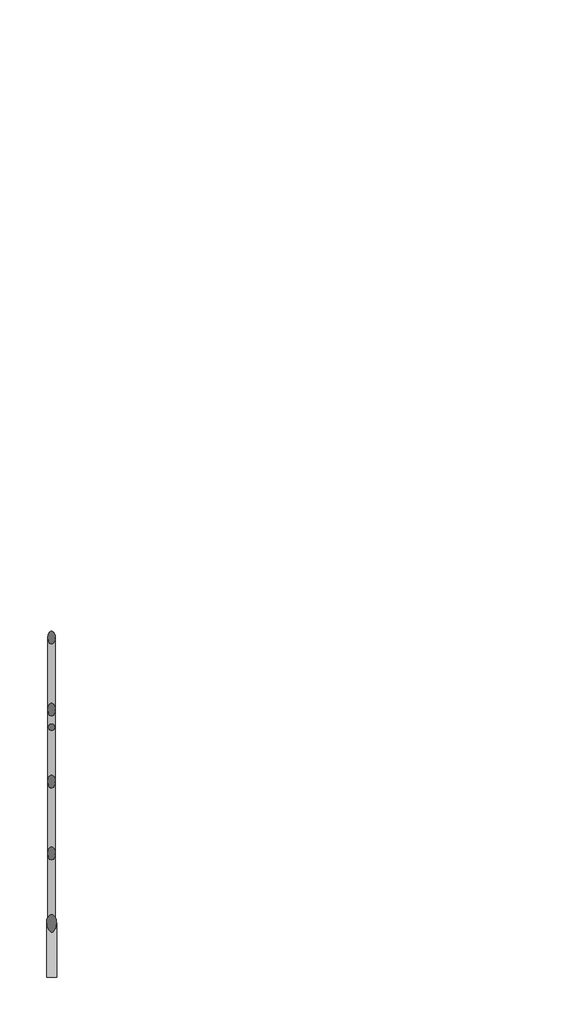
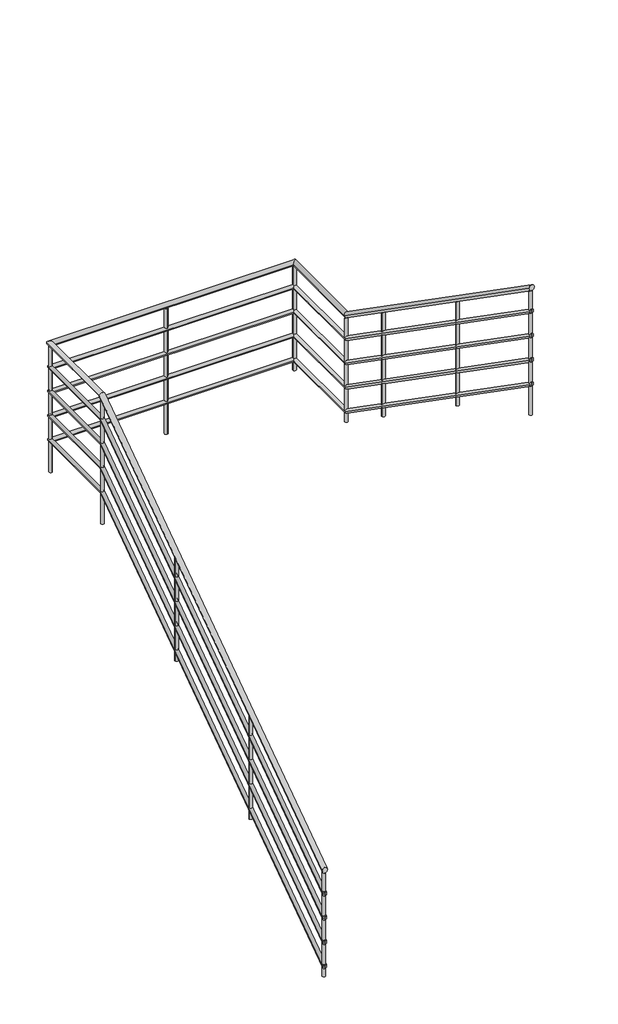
# One storey: 1 railing.
"""IFC4 building model written with IfcOpenShell, lengths in millimetres."""

from ifc_helpers import new_model, si_unit, point, frame, frame_2d, origin, place, context, project, spatial, circle_curve, ellipse_curve, trimmed, segment, composite_curve, outline, extrude, element, save
from ifc_brep_helpers import plane_surface, cylinder_surface, advanced_brep

model = new_model("IFC4")

# Units and contexts
model_context = context("Model", 3, world=origin())
ifc_project = project(units=[si_unit("LENGTHUNIT", "METRE", prefix="MILLI")], contexts=[model_context])

# Site, building, storey
site = spatial("IfcSite", under=ifc_project)
building = spatial("IfcBuilding", under=site)
storey = spatial("IfcBuildingStorey", under=building, Name="樓層 1", Elevation=0.0)

# Railing
placement = place(None, origin())
element("IfcRailing", 1, ObjectType="900mm 管", at=placement, inside=storey, context=model_context, shape_type="SolidModel", body=[
    advanced_brep(
    [(-9455.2896387, 3376.9038533, 1049.5496944), (-9495.2896387, 3376.9038533, 1049.5496944), (-7595.2896387, 3876.9038533, 4875.6366509), (-7555.2896387, 3876.9038533, 4875.6366509), (-9455.2896387, 6383.1761676, 3140.8695652), (-9495.2896387, 6383.1761676, 3140.8695652), (-9455.2896387, 7056.9038533, 3140.8695652), (-9495.2896387, 7096.9038533, 3140.8695652), (-7595.2896387, 7056.9038533, 3140.8695652), (-7555.2896387, 7096.9038533, 3140.8695652), (-7595.2896387, 6370.631539, 3140.8695652), (-7555.2896387, 6370.631539, 3140.8695652)],
    [
        (0, 1, ellipse_curve(frame((-9475.2896387, 3376.9038533, 1049.5496944), z_axis=(0.0, -1.0, 0.0), x_axis=(0.0, 0.0, -1.0)), 24.3633491, 20.0)),
        (1, 0, ellipse_curve(frame((-9475.2896387, 3376.9038533, 1049.5496944), z_axis=(0.0, -1.0, 0.0), x_axis=(0.0, 0.0, -1.0)), 24.3633491, 20.0)),
        (2, 3, ellipse_curve(frame((-7575.2896387, 3876.9038533, 4875.6366509), z_axis=(0.0, -1.0, 0.0), x_axis=(0.0, 0.0, -1.0)), 24.3633491, 20.0)),
        (3, 2, ellipse_curve(frame((-7575.2896387, 3876.9038533, 4875.6366509), z_axis=(0.0, -1.0, 0.0), x_axis=(0.0, 0.0, -1.0)), 24.3633491, 20.0)),
        (0, 4),
        (4, 5, ellipse_curve(frame((-9475.2896387, 6383.1761676, 3140.8695652), z_axis=(0.0, -0.9541763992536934, -0.2992447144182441), x_axis=(0.0, 0.2992447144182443, -0.9541763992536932)), 20.9604849, 20.0)),
        (5, 1),
        (5, 4, ellipse_curve(frame((-9475.2896387, 6383.1761676, 3140.8695652), z_axis=(0.0, -0.9541763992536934, -0.2992447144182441), x_axis=(0.0, 0.2992447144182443, -0.9541763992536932)), 20.9604849, 20.0)),
        (4, 6),
        (6, 7, ellipse_curve(frame((-9475.2896387, 7076.9038533, 3140.8695652), z_axis=(-0.7071067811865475, -0.7071067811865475, 0.0), x_axis=(0.7071067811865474, -0.7071067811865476, 0.0)), 28.2842712, 20.0)),
        (7, 5),
        (7, 6, ellipse_curve(frame((-9475.2896387, 7076.9038533, 3140.8695652), z_axis=(-0.7071067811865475, -0.7071067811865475, 0.0), x_axis=(0.7071067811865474, -0.7071067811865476, 0.0)), 28.2842712, 20.0)),
        (6, 8),
        (8, 9, ellipse_curve(frame((-7575.2896387, 7076.9038533, 3140.8695652), z_axis=(-0.7071067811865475, 0.7071067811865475, 0.0), x_axis=(-0.7071067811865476, -0.7071067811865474, 0.0)), 28.2842712, 20.0)),
        (9, 7),
        (9, 8, ellipse_curve(frame((-7575.2896387, 7076.9038533, 3140.8695652), z_axis=(-0.7071067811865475, 0.7071067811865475, 0.0), x_axis=(-0.7071067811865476, -0.7071067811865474, 0.0)), 28.2842712, 20.0)),
        (8, 10),
        (10, 11, ellipse_curve(frame((-7575.2896387, 6370.631539, 3140.8695652), z_axis=(0.0, 0.9541763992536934, -0.2992447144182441), x_axis=(0.0, 0.2992447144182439, 0.9541763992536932)), 20.9604849, 20.0)),
        (11, 9),
        (11, 10, ellipse_curve(frame((-7575.2896387, 6370.631539, 3140.8695652), z_axis=(0.0, 0.9541763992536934, -0.2992447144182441), x_axis=(0.0, 0.2992447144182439, 0.9541763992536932)), 20.9604849, 20.0)),
        (10, 2),
        (3, 11),
    ],
    [
        plane_surface(frame((-9475.2896387, 3376.9038533, 1073.9130435), z_axis=(0.0, -1.0, 0.0), x_axis=(0.0, 0.0, 1.0))),
        plane_surface(frame((-7575.2896387, 3876.9038533, 4900.0), z_axis=(0.0, -1.0, 0.0), x_axis=(0.0, 0.0, -1.0))),
        cylinder_surface(frame((-9475.2896387, 3388.3251431, 1057.4949394), z_axis=(0.0, -0.8209052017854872, -0.5710644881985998), x_axis=(-1.0, 0.0, 0.0)), 20.0),
        cylinder_surface(frame((-9475.2896387, 6376.9038533, 3140.8695652), z_axis=(0.0, -1.0, 0.0), x_axis=(-1.0, 0.0, 0.0)), 20.0),
        cylinder_surface(frame((-9475.2896387, 7076.9038533, 3140.8695652), z_axis=(-1.0, 0.0, 0.0), x_axis=(0.0, 1.0, 0.0)), 20.0),
        cylinder_surface(frame((-7575.2896387, 7076.9038533, 3140.8695652), z_axis=(0.0, 1.0, 0.0), x_axis=(1.0, 0.0, 0.0)), 20.0),
        cylinder_surface(frame((-7575.2896387, 6365.4825635, 3144.4514612), z_axis=(0.0, 0.8209052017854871, -0.5710644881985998), x_axis=(1.0, 0.0, 0.0)), 20.0),
    ],
    [
        (0, [[1, 2]]),
        (1, [[3, 4]]),
        (2, [[-1, 5, 6, 7]]),
        (2, [[-2, -7, 8, -5]]),
        (3, [[-6, 9, 10, 11]]),
        (3, [[-8, -11, 12, -9]]),
        (4, [[-10, 13, 14, 15]]),
        (4, [[-12, -15, 16, -13]]),
        (5, [[-14, 17, 18, 19]]),
        (5, [[-16, -19, 20, -17]]),
        (6, [[-18, 21, -4, 22]]),
        (6, [[-20, -22, -3, -21]]),
    ],
),
    advanced_brep(
    [(-7590.2896387, 3876.9038533, 4681.7274882), (-7560.2896387, 3876.9038533, 4681.7274882), (-7590.2896387, 6372.1996176, 2945.8695652), (-7560.2896387, 6372.1996176, 2945.8695652), (-7590.2896387, 7061.9038533, 2945.8695652), (-7560.2896387, 7091.9038533, 2945.8695652), (-9460.2896387, 7061.9038533, 2945.8695652), (-9490.2896387, 7091.9038533, 2945.8695652), (-9460.2896387, 6381.608089, 2945.8695652), (-9490.2896387, 6381.608089, 2945.8695652), (-9460.2896387, 3376.9038533, 855.6405317), (-9490.2896387, 3376.9038533, 855.6405317)],
    [
        (0, 1, ellipse_curve(frame((-7575.2896387, 3876.9038533, 4681.7274882), z_axis=(0.0, -1.0, 0.0), x_axis=(0.0, 0.0, 1.0)), 18.2725118, 15.0)),
        (1, 0, ellipse_curve(frame((-7575.2896387, 3876.9038533, 4681.7274882), z_axis=(0.0, -1.0, 0.0), x_axis=(0.0, 0.0, 1.0)), 18.2725118, 15.0)),
        (0, 2),
        (2, 3, ellipse_curve(frame((-7575.2896387, 6372.1996176, 2945.8695652), z_axis=(0.0, -0.9541763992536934, 0.2992447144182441), x_axis=(0.0, 0.2992447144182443, 0.9541763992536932)), 15.7203637, 15.0)),
        (3, 1),
        (3, 2, ellipse_curve(frame((-7575.2896387, 6372.1996176, 2945.8695652), z_axis=(0.0, -0.9541763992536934, 0.2992447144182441), x_axis=(0.0, 0.2992447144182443, 0.9541763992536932)), 15.7203637, 15.0)),
        (2, 4),
        (4, 5, ellipse_curve(frame((-7575.2896387, 7076.9038533, 2945.8695652), z_axis=(0.7071067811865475, -0.7071067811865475, 0.0), x_axis=(-0.7071067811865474, -0.7071067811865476, 0.0)), 21.2132034, 15.0)),
        (5, 3),
        (5, 4, ellipse_curve(frame((-7575.2896387, 7076.9038533, 2945.8695652), z_axis=(0.7071067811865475, -0.7071067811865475, 0.0), x_axis=(-0.7071067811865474, -0.7071067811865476, 0.0)), 21.2132034, 15.0)),
        (4, 6),
        (6, 7, ellipse_curve(frame((-9475.2896387, 7076.9038533, 2945.8695652), z_axis=(0.7071067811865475, 0.7071067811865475, 0.0), x_axis=(0.7071067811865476, -0.7071067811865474, 0.0)), 21.2132034, 15.0)),
        (7, 5),
        (7, 6, ellipse_curve(frame((-9475.2896387, 7076.9038533, 2945.8695652), z_axis=(0.7071067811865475, 0.7071067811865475, 0.0), x_axis=(0.7071067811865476, -0.7071067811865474, 0.0)), 21.2132034, 15.0)),
        (6, 8),
        (8, 9, ellipse_curve(frame((-9475.2896387, 6381.608089, 2945.8695652), z_axis=(0.0, 0.9541763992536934, 0.2992447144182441), x_axis=(0.0, 0.2992447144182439, -0.9541763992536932)), 15.7203637, 15.0)),
        (9, 7),
        (9, 8, ellipse_curve(frame((-9475.2896387, 6381.608089, 2945.8695652), z_axis=(0.0, 0.9541763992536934, 0.2992447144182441), x_axis=(0.0, 0.2992447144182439, -0.9541763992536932)), 15.7203637, 15.0)),
        (10, 11, ellipse_curve(frame((-9475.2896387, 3376.9038533, 855.6405317), z_axis=(0.0, -1.0, 0.0), x_axis=(0.0, 0.0, 1.0)), 18.2725118, 15.0)),
        (11, 10, ellipse_curve(frame((-9475.2896387, 3376.9038533, 855.6405317), z_axis=(0.0, -1.0, 0.0), x_axis=(0.0, 0.0, 1.0)), 18.2725118, 15.0)),
        (8, 10),
        (11, 9),
    ],
    [
        plane_surface(frame((-7575.2896387, 3876.9038533, 4700.0), z_axis=(0.0, -1.0, 0.0), x_axis=(0.0, 0.0, 1.0))),
        cylinder_surface(frame((-7575.2896387, 3868.337886, 4687.686422), z_axis=(0.0, -0.8209052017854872, 0.5710644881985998), x_axis=(1.0, 0.0, 0.0)), 15.0),
        cylinder_surface(frame((-7575.2896387, 6376.9038533, 2945.8695652), z_axis=(0.0, -1.0, 0.0), x_axis=(1.0, 0.0, 0.0)), 15.0),
        cylinder_surface(frame((-7575.2896387, 7076.9038533, 2945.8695652), z_axis=(1.0, 0.0, 0.0), x_axis=(0.0, 1.0, 0.0)), 15.0),
        cylinder_surface(frame((-9475.2896387, 7076.9038533, 2945.8695652), z_axis=(0.0, 1.0, 0.0), x_axis=(-1.0, 0.0, 0.0)), 15.0),
        plane_surface(frame((-9475.2896387, 3376.9038533, 873.9130435), z_axis=(0.0, -1.0, 0.0), x_axis=(0.0, 0.0, -1.0))),
        cylinder_surface(frame((-9475.2896387, 6385.4698206, 2948.5559872), z_axis=(0.0, 0.8209052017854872, 0.5710644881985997), x_axis=(-1.0, 0.0, 0.0)), 15.0),
    ],
    [
        (0, [[1, 2]]),
        (1, [[-1, 3, 4, 5]]),
        (1, [[-2, -5, 6, -3]]),
        (2, [[-4, 7, 8, 9]]),
        (2, [[-6, -9, 10, -7]]),
        (3, [[-8, 11, 12, 13]]),
        (3, [[-10, -13, 14, -11]]),
        (4, [[-12, 15, 16, 17]]),
        (4, [[-14, -17, 18, -15]]),
        (5, [[19, 20]]),
        (6, [[-16, 21, -20, 22]]),
        (6, [[-18, -22, -19, -21]]),
    ],
),
    advanced_brep(
    [(-7590.2896387, 3876.9038533, 4481.7274882), (-7560.2896387, 3876.9038533, 4481.7274882), (-7590.2896387, 6372.1996176, 2745.8695652), (-7560.2896387, 6372.1996176, 2745.8695652), (-7590.2896387, 7061.9038533, 2745.8695652), (-7560.2896387, 7091.9038533, 2745.8695652), (-9460.2896387, 7061.9038533, 2745.8695652), (-9490.2896387, 7091.9038533, 2745.8695652), (-9460.2896387, 6381.608089, 2745.8695652), (-9490.2896387, 6381.608089, 2745.8695652), (-9460.2896387, 3376.9038533, 655.6405317), (-9490.2896387, 3376.9038533, 655.6405317)],
    [
        (0, 1, ellipse_curve(frame((-7575.2896387, 3876.9038533, 4481.7274882), z_axis=(0.0, -1.0, 0.0), x_axis=(0.0, 0.0, 1.0)), 18.2725118, 15.0)),
        (1, 0, ellipse_curve(frame((-7575.2896387, 3876.9038533, 4481.7274882), z_axis=(0.0, -1.0, 0.0), x_axis=(0.0, 0.0, 1.0)), 18.2725118, 15.0)),
        (0, 2),
        (2, 3, ellipse_curve(frame((-7575.2896387, 6372.1996176, 2745.8695652), z_axis=(0.0, -0.9541763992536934, 0.2992447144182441), x_axis=(0.0, 0.2992447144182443, 0.9541763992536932)), 15.7203637, 15.0)),
        (3, 1),
        (3, 2, ellipse_curve(frame((-7575.2896387, 6372.1996176, 2745.8695652), z_axis=(0.0, -0.9541763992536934, 0.2992447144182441), x_axis=(0.0, 0.2992447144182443, 0.9541763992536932)), 15.7203637, 15.0)),
        (2, 4),
        (4, 5, ellipse_curve(frame((-7575.2896387, 7076.9038533, 2745.8695652), z_axis=(0.7071067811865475, -0.7071067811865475, 0.0), x_axis=(-0.7071067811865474, -0.7071067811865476, 0.0)), 21.2132034, 15.0)),
        (5, 3),
        (5, 4, ellipse_curve(frame((-7575.2896387, 7076.9038533, 2745.8695652), z_axis=(0.7071067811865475, -0.7071067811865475, 0.0), x_axis=(-0.7071067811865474, -0.7071067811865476, 0.0)), 21.2132034, 15.0)),
        (4, 6),
        (6, 7, ellipse_curve(frame((-9475.2896387, 7076.9038533, 2745.8695652), z_axis=(0.7071067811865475, 0.7071067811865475, 0.0), x_axis=(0.7071067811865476, -0.7071067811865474, 0.0)), 21.2132034, 15.0)),
        (7, 5),
        (7, 6, ellipse_curve(frame((-9475.2896387, 7076.9038533, 2745.8695652), z_axis=(0.7071067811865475, 0.7071067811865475, 0.0), x_axis=(0.7071067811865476, -0.7071067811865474, 0.0)), 21.2132034, 15.0)),
        (6, 8),
        (8, 9, ellipse_curve(frame((-9475.2896387, 6381.608089, 2745.8695652), z_axis=(0.0, 0.9541763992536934, 0.2992447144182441), x_axis=(0.0, 0.2992447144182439, -0.9541763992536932)), 15.7203637, 15.0)),
        (9, 7),
        (9, 8, ellipse_curve(frame((-9475.2896387, 6381.608089, 2745.8695652), z_axis=(0.0, 0.9541763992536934, 0.2992447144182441), x_axis=(0.0, 0.2992447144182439, -0.9541763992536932)), 15.7203637, 15.0)),
        (10, 11, ellipse_curve(frame((-9475.2896387, 3376.9038533, 655.6405317), z_axis=(0.0, -1.0, 0.0), x_axis=(0.0, 0.0, 1.0)), 18.2725118, 15.0)),
        (11, 10, ellipse_curve(frame((-9475.2896387, 3376.9038533, 655.6405317), z_axis=(0.0, -1.0, 0.0), x_axis=(0.0, 0.0, 1.0)), 18.2725118, 15.0)),
        (8, 10),
        (11, 9),
    ],
    [
        plane_surface(frame((-7575.2896387, 3876.9038533, 4500.0), z_axis=(0.0, -1.0, 0.0), x_axis=(0.0, 0.0, 1.0))),
        cylinder_surface(frame((-7575.2896387, 3868.337886, 4487.686422), z_axis=(0.0, -0.8209052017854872, 0.5710644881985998), x_axis=(1.0, 0.0, 0.0)), 15.0),
        cylinder_surface(frame((-7575.2896387, 6376.9038533, 2745.8695652), z_axis=(0.0, -1.0, 0.0), x_axis=(1.0, 0.0, 0.0)), 15.0),
        cylinder_surface(frame((-7575.2896387, 7076.9038533, 2745.8695652), z_axis=(1.0, 0.0, 0.0), x_axis=(0.0, 1.0, 0.0)), 15.0),
        cylinder_surface(frame((-9475.2896387, 7076.9038533, 2745.8695652), z_axis=(0.0, 1.0, 0.0), x_axis=(-1.0, 0.0, 0.0)), 15.0),
        plane_surface(frame((-9475.2896387, 3376.9038533, 673.9130435), z_axis=(0.0, -1.0, 0.0), x_axis=(0.0, 0.0, -1.0))),
        cylinder_surface(frame((-9475.2896387, 6385.4698206, 2748.5559872), z_axis=(0.0, 0.8209052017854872, 0.5710644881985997), x_axis=(-1.0, 0.0, 0.0)), 15.0),
    ],
    [
        (0, [[1, 2]]),
        (1, [[-1, 3, 4, 5]]),
        (1, [[-2, -5, 6, -3]]),
        (2, [[-4, 7, 8, 9]]),
        (2, [[-6, -9, 10, -7]]),
        (3, [[-8, 11, 12, 13]]),
        (3, [[-10, -13, 14, -11]]),
        (4, [[-12, 15, 16, 17]]),
        (4, [[-14, -17, 18, -15]]),
        (5, [[19, 20]]),
        (6, [[-16, 21, -20, 22]]),
        (6, [[-18, -22, -19, -21]]),
    ],
),
    advanced_brep(
    [(-7590.2896387, 3876.9038533, 4281.7274882), (-7560.2896387, 3876.9038533, 4281.7274882), (-7590.2896387, 6372.1996176, 2545.8695652), (-7560.2896387, 6372.1996176, 2545.8695652), (-7590.2896387, 7061.9038533, 2545.8695652), (-7560.2896387, 7091.9038533, 2545.8695652), (-9460.2896387, 7061.9038533, 2545.8695652), (-9490.2896387, 7091.9038533, 2545.8695652), (-9460.2896387, 6381.608089, 2545.8695652), (-9490.2896387, 6381.608089, 2545.8695652), (-9460.2896387, 3376.9038533, 455.6405317), (-9490.2896387, 3376.9038533, 455.6405317)],
    [
        (0, 1, ellipse_curve(frame((-7575.2896387, 3876.9038533, 4281.7274882), z_axis=(0.0, -1.0, 0.0), x_axis=(0.0, 0.0, 1.0)), 18.2725118, 15.0)),
        (1, 0, ellipse_curve(frame((-7575.2896387, 3876.9038533, 4281.7274882), z_axis=(0.0, -1.0, 0.0), x_axis=(0.0, 0.0, 1.0)), 18.2725118, 15.0)),
        (0, 2),
        (2, 3, ellipse_curve(frame((-7575.2896387, 6372.1996176, 2545.8695652), z_axis=(0.0, -0.9541763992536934, 0.2992447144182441), x_axis=(0.0, 0.2992447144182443, 0.9541763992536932)), 15.7203637, 15.0)),
        (3, 1),
        (3, 2, ellipse_curve(frame((-7575.2896387, 6372.1996176, 2545.8695652), z_axis=(0.0, -0.9541763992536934, 0.2992447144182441), x_axis=(0.0, 0.2992447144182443, 0.9541763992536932)), 15.7203637, 15.0)),
        (2, 4),
        (4, 5, ellipse_curve(frame((-7575.2896387, 7076.9038533, 2545.8695652), z_axis=(0.7071067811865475, -0.7071067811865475, 0.0), x_axis=(-0.7071067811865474, -0.7071067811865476, 0.0)), 21.2132034, 15.0)),
        (5, 3),
        (5, 4, ellipse_curve(frame((-7575.2896387, 7076.9038533, 2545.8695652), z_axis=(0.7071067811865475, -0.7071067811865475, 0.0), x_axis=(-0.7071067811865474, -0.7071067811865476, 0.0)), 21.2132034, 15.0)),
        (4, 6),
        (6, 7, ellipse_curve(frame((-9475.2896387, 7076.9038533, 2545.8695652), z_axis=(0.7071067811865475, 0.7071067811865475, 0.0), x_axis=(0.7071067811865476, -0.7071067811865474, 0.0)), 21.2132034, 15.0)),
        (7, 5),
        (7, 6, ellipse_curve(frame((-9475.2896387, 7076.9038533, 2545.8695652), z_axis=(0.7071067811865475, 0.7071067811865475, 0.0), x_axis=(0.7071067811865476, -0.7071067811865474, 0.0)), 21.2132034, 15.0)),
        (6, 8),
        (8, 9, ellipse_curve(frame((-9475.2896387, 6381.608089, 2545.8695652), z_axis=(0.0, 0.9541763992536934, 0.2992447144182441), x_axis=(0.0, 0.2992447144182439, -0.9541763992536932)), 15.7203637, 15.0)),
        (9, 7),
        (9, 8, ellipse_curve(frame((-9475.2896387, 6381.608089, 2545.8695652), z_axis=(0.0, 0.9541763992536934, 0.2992447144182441), x_axis=(0.0, 0.2992447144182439, -0.9541763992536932)), 15.7203637, 15.0)),
        (10, 11, ellipse_curve(frame((-9475.2896387, 3376.9038533, 455.6405317), z_axis=(0.0, -1.0, 0.0), x_axis=(0.0, 0.0, 1.0)), 18.2725118, 15.0)),
        (11, 10, ellipse_curve(frame((-9475.2896387, 3376.9038533, 455.6405317), z_axis=(0.0, -1.0, 0.0), x_axis=(0.0, 0.0, 1.0)), 18.2725118, 15.0)),
        (8, 10),
        (11, 9),
    ],
    [
        plane_surface(frame((-7575.2896387, 3876.9038533, 4300.0), z_axis=(0.0, -1.0, 0.0), x_axis=(0.0, 0.0, 1.0))),
        cylinder_surface(frame((-7575.2896387, 3868.337886, 4287.686422), z_axis=(0.0, -0.8209052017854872, 0.5710644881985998), x_axis=(1.0, 0.0, 0.0)), 15.0),
        cylinder_surface(frame((-7575.2896387, 6376.9038533, 2545.8695652), z_axis=(0.0, -1.0, 0.0), x_axis=(1.0, 0.0, 0.0)), 15.0),
        cylinder_surface(frame((-7575.2896387, 7076.9038533, 2545.8695652), z_axis=(1.0, 0.0, 0.0), x_axis=(0.0, 1.0, 0.0)), 15.0),
        cylinder_surface(frame((-9475.2896387, 7076.9038533, 2545.8695652), z_axis=(0.0, 1.0, 0.0), x_axis=(-1.0, 0.0, 0.0)), 15.0),
        plane_surface(frame((-9475.2896387, 3376.9038533, 473.9130435), z_axis=(0.0, -1.0, 0.0), x_axis=(0.0, 0.0, -1.0))),
        cylinder_surface(frame((-9475.2896387, 6385.4698206, 2548.5559872), z_axis=(0.0, 0.8209052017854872, 0.5710644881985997), x_axis=(-1.0, 0.0, 0.0)), 15.0),
    ],
    [
        (0, [[1, 2]]),
        (1, [[-1, 3, 4, 5]]),
        (1, [[-2, -5, 6, -3]]),
        (2, [[-4, 7, 8, 9]]),
        (2, [[-6, -9, 10, -7]]),
        (3, [[-8, 11, 12, 13]]),
        (3, [[-10, -13, 14, -11]]),
        (4, [[-12, 15, 16, 17]]),
        (4, [[-14, -17, 18, -15]]),
        (5, [[19, 20]]),
        (6, [[-16, 21, -20, 22]]),
        (6, [[-18, -22, -19, -21]]),
    ],
),
    advanced_brep(
    [(-7590.2896387, 3876.9038533, 4081.7274882), (-7560.2896387, 3876.9038533, 4081.7274882), (-7590.2896387, 6372.1996176, 2345.8695652), (-7560.2896387, 6372.1996176, 2345.8695652), (-7590.2896387, 7061.9038533, 2345.8695652), (-7560.2896387, 7091.9038533, 2345.8695652), (-9460.2896387, 7061.9038533, 2345.8695652), (-9490.2896387, 7091.9038533, 2345.8695652), (-9460.2896387, 6381.608089, 2345.8695652), (-9490.2896387, 6381.608089, 2345.8695652), (-9460.2896387, 3376.9038533, 255.6405317), (-9490.2896387, 3376.9038533, 255.6405317)],
    [
        (0, 1, ellipse_curve(frame((-7575.2896387, 3876.9038533, 4081.7274882), z_axis=(0.0, -1.0, 0.0), x_axis=(0.0, 0.0, 1.0)), 18.2725118, 15.0)),
        (1, 0, ellipse_curve(frame((-7575.2896387, 3876.9038533, 4081.7274882), z_axis=(0.0, -1.0, 0.0), x_axis=(0.0, 0.0, 1.0)), 18.2725118, 15.0)),
        (0, 2),
        (2, 3, ellipse_curve(frame((-7575.2896387, 6372.1996176, 2345.8695652), z_axis=(0.0, -0.9541763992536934, 0.2992447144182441), x_axis=(0.0, 0.2992447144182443, 0.9541763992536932)), 15.7203637, 15.0)),
        (3, 1),
        (3, 2, ellipse_curve(frame((-7575.2896387, 6372.1996176, 2345.8695652), z_axis=(0.0, -0.9541763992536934, 0.2992447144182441), x_axis=(0.0, 0.2992447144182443, 0.9541763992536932)), 15.7203637, 15.0)),
        (2, 4),
        (4, 5, ellipse_curve(frame((-7575.2896387, 7076.9038533, 2345.8695652), z_axis=(0.7071067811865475, -0.7071067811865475, 0.0), x_axis=(-0.7071067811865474, -0.7071067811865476, 0.0)), 21.2132034, 15.0)),
        (5, 3),
        (5, 4, ellipse_curve(frame((-7575.2896387, 7076.9038533, 2345.8695652), z_axis=(0.7071067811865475, -0.7071067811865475, 0.0), x_axis=(-0.7071067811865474, -0.7071067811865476, 0.0)), 21.2132034, 15.0)),
        (4, 6),
        (6, 7, ellipse_curve(frame((-9475.2896387, 7076.9038533, 2345.8695652), z_axis=(0.7071067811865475, 0.7071067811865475, 0.0), x_axis=(0.7071067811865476, -0.7071067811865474, 0.0)), 21.2132034, 15.0)),
        (7, 5),
        (7, 6, ellipse_curve(frame((-9475.2896387, 7076.9038533, 2345.8695652), z_axis=(0.7071067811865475, 0.7071067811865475, 0.0), x_axis=(0.7071067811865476, -0.7071067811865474, 0.0)), 21.2132034, 15.0)),
        (6, 8),
        (8, 9, ellipse_curve(frame((-9475.2896387, 6381.608089, 2345.8695652), z_axis=(0.0, 0.9541763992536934, 0.2992447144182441), x_axis=(0.0, 0.2992447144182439, -0.9541763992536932)), 15.7203637, 15.0)),
        (9, 7),
        (9, 8, ellipse_curve(frame((-9475.2896387, 6381.608089, 2345.8695652), z_axis=(0.0, 0.9541763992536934, 0.2992447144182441), x_axis=(0.0, 0.2992447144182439, -0.9541763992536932)), 15.7203637, 15.0)),
        (10, 11, ellipse_curve(frame((-9475.2896387, 3376.9038533, 255.6405317), z_axis=(0.0, -1.0, 0.0), x_axis=(0.0, 0.0, 1.0)), 18.2725118, 15.0)),
        (11, 10, ellipse_curve(frame((-9475.2896387, 3376.9038533, 255.6405317), z_axis=(0.0, -1.0, 0.0), x_axis=(0.0, 0.0, 1.0)), 18.2725118, 15.0)),
        (8, 10),
        (11, 9),
    ],
    [
        plane_surface(frame((-7575.2896387, 3876.9038533, 4100.0), z_axis=(0.0, -1.0, 0.0), x_axis=(0.0, 0.0, 1.0))),
        cylinder_surface(frame((-7575.2896387, 3868.337886, 4087.686422), z_axis=(0.0, -0.8209052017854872, 0.5710644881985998), x_axis=(1.0, 0.0, 0.0)), 15.0),
        cylinder_surface(frame((-7575.2896387, 6376.9038533, 2345.8695652), z_axis=(0.0, -1.0, 0.0), x_axis=(1.0, 0.0, 0.0)), 15.0),
        cylinder_surface(frame((-7575.2896387, 7076.9038533, 2345.8695652), z_axis=(1.0, 0.0, 0.0), x_axis=(0.0, 1.0, 0.0)), 15.0),
        cylinder_surface(frame((-9475.2896387, 7076.9038533, 2345.8695652), z_axis=(0.0, 1.0, 0.0), x_axis=(-1.0, 0.0, 0.0)), 15.0),
        plane_surface(frame((-9475.2896387, 3376.9038533, 273.9130435), z_axis=(0.0, -1.0, 0.0), x_axis=(0.0, 0.0, -1.0))),
        cylinder_surface(frame((-9475.2896387, 6385.4698206, 2348.5559872), z_axis=(0.0, 0.8209052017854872, 0.5710644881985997), x_axis=(-1.0, 0.0, 0.0)), 15.0),
    ],
    [
        (0, [[1, 2]]),
        (1, [[-1, 3, 4, 5]]),
        (1, [[-2, -5, 6, -3]]),
        (2, [[-4, 7, 8, 9]]),
        (2, [[-6, -9, 10, -7]]),
        (3, [[-8, 11, 12, 13]]),
        (3, [[-10, -13, 14, -11]]),
        (4, [[-12, 15, 16, 17]]),
        (4, [[-14, -17, 18, -15]]),
        (5, [[19, 20]]),
        (6, [[-16, 21, -20, 22]]),
        (6, [[-18, -22, -19, -21]]),
    ],
),
    advanced_brep(
    [(-9487.7896387, 4376.9038533, 1720.8385192), (-9487.7896387, 4376.9038533, 869.5652174), (-9462.7896387, 4376.9038533, 869.5652174), (-9462.7896387, 4376.9038533, 1720.8385192)],
    [
        (0, 1),
        (1, 2, circle_curve(frame((-9475.2896387, 4376.9038533, 869.5652174), z_axis=(0.0, 0.0, 1.0), x_axis=(1.0, 0.0, 0.0)), 12.5)),
        (2, 3),
        (3, 0, ellipse_curve(frame((-9475.2896387, 4376.9038533, 1720.8385192), z_axis=(0.0, 0.5710644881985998, -0.8209052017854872), x_axis=(0.0, 0.8209052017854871, 0.5710644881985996)), 15.2270932, 12.5)),
        (0, 3, ellipse_curve(frame((-9475.2896387, 4376.9038533, 1720.8385192), z_axis=(0.0, 0.5710644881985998, -0.8209052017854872), x_axis=(0.0, 0.8209052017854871, 0.5710644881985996)), 15.2270932, 12.5)),
        (2, 1, circle_curve(frame((-9475.2896387, 4376.9038533, 869.5652174), z_axis=(0.0, 0.0, 1.0), x_axis=(1.0, 0.0, 0.0)), 12.5)),
    ],
    [
        cylinder_surface(frame((-9475.2896387, 4376.9038533, 769.5652174), z_axis=(0.0, 0.0, 1.0), x_axis=(1.0, 0.0, 0.0)), 12.5),
        plane_surface(frame((-9450.2896387, 4351.9038533, 1703.4472149), z_axis=(0.0, -0.5710644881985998, 0.8209052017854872), x_axis=(-1.0, 0.0, 0.0))),
        plane_surface(frame((-9450.2896387, 4401.9038533, 869.5652174), z_axis=(0.0, 0.0, -1.0), x_axis=(-1.0, 0.0, 0.0))),
    ],
    [
        (0, [[1, 2, 3, 4]]),
        (0, [[-1, 5, -3, 6]]),
        (1, [[-4, -5]]),
        (2, [[-2, -6]]),
    ],
),
    advanced_brep(
    [(-9487.7896387, 5376.9038533, 2416.4906931), (-9487.7896387, 5376.9038533, 1565.2173913), (-9462.7896387, 5376.9038533, 1565.2173913), (-9462.7896387, 5376.9038533, 2416.4906931)],
    [
        (0, 1),
        (1, 2, circle_curve(frame((-9475.2896387, 5376.9038533, 1565.2173913), z_axis=(0.0, 0.0, 1.0), x_axis=(1.0, 0.0, 0.0)), 12.5)),
        (2, 3),
        (3, 0, ellipse_curve(frame((-9475.2896387, 5376.9038533, 2416.4906931), z_axis=(0.0, 0.5710644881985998, -0.8209052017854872), x_axis=(0.0, 0.8209052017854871, 0.5710644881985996)), 15.2270932, 12.5)),
        (0, 3, ellipse_curve(frame((-9475.2896387, 5376.9038533, 2416.4906931), z_axis=(0.0, 0.5710644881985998, -0.8209052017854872), x_axis=(0.0, 0.8209052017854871, 0.5710644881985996)), 15.2270932, 12.5)),
        (2, 1, circle_curve(frame((-9475.2896387, 5376.9038533, 1565.2173913), z_axis=(0.0, 0.0, 1.0), x_axis=(1.0, 0.0, 0.0)), 12.5)),
    ],
    [
        cylinder_surface(frame((-9475.2896387, 5376.9038533, 1465.2173913), z_axis=(0.0, 0.0, 1.0), x_axis=(1.0, 0.0, 0.0)), 12.5),
        plane_surface(frame((-9450.2896387, 5351.9038533, 2399.0993888), z_axis=(0.0, -0.5710644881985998, 0.8209052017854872), x_axis=(-1.0, 0.0, 0.0))),
        plane_surface(frame((-9450.2896387, 5401.9038533, 1565.2173913), z_axis=(0.0, 0.0, -1.0), x_axis=(-1.0, 0.0, 0.0))),
    ],
    [
        (0, [[1, 2, 3, 4]]),
        (0, [[-1, 5, -3, 6]]),
        (1, [[-4, -5]]),
        (2, [[-2, -6]]),
    ],
),
    extrude(outline(composite_curve([segment(trimmed(circle_curve(frame_2d((-8575.2896387, 7076.9038533)), 12.5), [point((-8575.2896387, 7064.4038533))], [point((-8575.2896387, 7089.4038533))], False, "CARTESIAN"), True, "CONTINUOUS"), segment(trimmed(circle_curve(frame_2d((-8575.2896387, 7076.9038533)), 12.5), [point((-8575.2896387, 7089.4038533))], [point((-8575.2896387, 7064.4038533))], False, "CARTESIAN"), True, "CONTINUOUS")], self_intersect=False)), frame((0.0, 0.0, 2086.9565217), z_axis=(0.0, 0.0, 1.0), x_axis=(1.0, 0.0, 0.0)), (0.0, 0.0, 1.0), 1033.9130435),
    advanced_brep(
    [(-7562.7896387, 5876.9038533, 3459.968954), (-7562.7896387, 5876.9038533, 2608.6956522), (-7587.7896387, 5876.9038533, 2608.6956522), (-7587.7896387, 5876.9038533, 3459.968954)],
    [
        (0, 1),
        (1, 2, circle_curve(frame((-7575.2896387, 5876.9038533, 2608.6956522), z_axis=(0.0, 0.0, 1.0), x_axis=(-1.0, 0.0, 0.0)), 12.5)),
        (2, 3),
        (3, 0, ellipse_curve(frame((-7575.2896387, 5876.9038533, 3459.968954), z_axis=(0.0, -0.5710644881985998, -0.8209052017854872), x_axis=(0.0, -0.8209052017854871, 0.5710644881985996)), 15.2270932, 12.5)),
        (0, 3, ellipse_curve(frame((-7575.2896387, 5876.9038533, 3459.968954), z_axis=(0.0, -0.5710644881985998, -0.8209052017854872), x_axis=(0.0, -0.8209052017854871, 0.5710644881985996)), 15.2270932, 12.5)),
        (2, 1, circle_curve(frame((-7575.2896387, 5876.9038533, 2608.6956522), z_axis=(0.0, 0.0, 1.0), x_axis=(-1.0, 0.0, 0.0)), 12.5)),
    ],
    [
        cylinder_surface(frame((-7575.2896387, 5876.9038533, 2508.6956522), z_axis=(0.0, 0.0, 1.0), x_axis=(-1.0, 0.0, 0.0)), 12.5),
        plane_surface(frame((-7600.2896387, 5901.9038533, 3442.5776496), z_axis=(0.0, 0.5710644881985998, 0.8209052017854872), x_axis=(1.0, 0.0, 0.0))),
        plane_surface(frame((-7600.2896387, 5851.9038533, 2608.6956522), z_axis=(0.0, 0.0, -1.0), x_axis=(1.0, 0.0, 0.0))),
    ],
    [
        (0, [[1, 2, 3, 4]]),
        (0, [[-1, 5, -3, 6]]),
        (1, [[-4, -5]]),
        (2, [[-2, -6]]),
    ],
),
    advanced_brep(
    [(-7562.7896387, 4876.9038533, 4155.6211279), (-7562.7896387, 4876.9038533, 3304.3478261), (-7587.7896387, 4876.9038533, 3304.3478261), (-7587.7896387, 4876.9038533, 4155.6211279)],
    [
        (0, 1),
        (1, 2, circle_curve(frame((-7575.2896387, 4876.9038533, 3304.3478261), z_axis=(0.0, 0.0, 1.0), x_axis=(-1.0, 0.0, 0.0)), 12.5)),
        (2, 3),
        (3, 0, ellipse_curve(frame((-7575.2896387, 4876.9038533, 4155.6211279), z_axis=(0.0, -0.5710644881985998, -0.8209052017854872), x_axis=(0.0, -0.8209052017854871, 0.5710644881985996)), 15.2270932, 12.5)),
        (0, 3, ellipse_curve(frame((-7575.2896387, 4876.9038533, 4155.6211279), z_axis=(0.0, -0.5710644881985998, -0.8209052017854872), x_axis=(0.0, -0.8209052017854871, 0.5710644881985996)), 15.2270932, 12.5)),
        (2, 1, circle_curve(frame((-7575.2896387, 4876.9038533, 3304.3478261), z_axis=(0.0, 0.0, 1.0), x_axis=(-1.0, 0.0, 0.0)), 12.5)),
    ],
    [
        cylinder_surface(frame((-7575.2896387, 4876.9038533, 3204.3478261), z_axis=(0.0, 0.0, 1.0), x_axis=(-1.0, 0.0, 0.0)), 12.5),
        plane_surface(frame((-7600.2896387, 4901.9038533, 4138.2298236), z_axis=(0.0, 0.5710644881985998, 0.8209052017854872), x_axis=(1.0, 0.0, 0.0))),
        plane_surface(frame((-7600.2896387, 4851.9038533, 3304.3478261), z_axis=(0.0, 0.0, -1.0), x_axis=(1.0, 0.0, 0.0))),
    ],
    [
        (0, [[1, 2, 3, 4]]),
        (0, [[-1, 5, -3, 6]]),
        (1, [[-4, -5]]),
        (2, [[-2, -6]]),
    ],
),
    extrude(outline(composite_curve([segment(trimmed(circle_curve(frame_2d((-9475.2896387, 6376.9038533)), 12.5), [point((-9462.7896387, 6376.9038533))], [point((-9487.7896387, 6376.9038533))], False, "CARTESIAN"), True, "CONTINUOUS"), segment(trimmed(circle_curve(frame_2d((-9475.2896387, 6376.9038533)), 12.5), [point((-9487.7896387, 6376.9038533))], [point((-9462.7896387, 6376.9038533))], False, "CARTESIAN"), True, "CONTINUOUS")], self_intersect=False)), frame((0.0, 0.0, 2086.9565217), z_axis=(0.0, 0.0, 1.0), x_axis=(1.0, 0.0, 0.0)), (0.0, 0.0, 1.0), 1033.9130435),
    extrude(outline(composite_curve([segment(trimmed(circle_curve(frame_2d((-9475.2896387, 7076.9038533)), 12.5), [point((-9475.2896387, 7064.4038533))], [point((-9475.2896387, 7089.4038533))], False, "CARTESIAN"), True, "CONTINUOUS"), segment(trimmed(circle_curve(frame_2d((-9475.2896387, 7076.9038533)), 12.5), [point((-9475.2896387, 7089.4038533))], [point((-9475.2896387, 7064.4038533))], False, "CARTESIAN"), True, "CONTINUOUS")], self_intersect=False)), frame((0.0, 0.0, 2086.9565217), z_axis=(0.0, 0.0, 1.0), x_axis=(1.0, 0.0, 0.0)), (0.0, 0.0, 1.0), 1033.9130435),
    extrude(outline(composite_curve([segment(trimmed(circle_curve(frame_2d((-7575.2896387, 7076.9038533)), 12.5), [point((-7587.7896387, 7076.9038533))], [point((-7562.7896387, 7076.9038533))], False, "CARTESIAN"), True, "CONTINUOUS"), segment(trimmed(circle_curve(frame_2d((-7575.2896387, 7076.9038533)), 12.5), [point((-7562.7896387, 7076.9038533))], [point((-7587.7896387, 7076.9038533))], False, "CARTESIAN"), True, "CONTINUOUS")], self_intersect=False)), frame((0.0, 0.0, 2260.8695652), z_axis=(0.0, 0.0, 1.0), x_axis=(1.0, 0.0, 0.0)), (0.0, 0.0, 1.0), 860.0),
    advanced_brep(
    [(-7562.7896387, 6376.9038533, 3112.142867), (-7562.7896387, 6376.9038533, 2260.8695652), (-7587.7896387, 6376.9038533, 2260.8695652), (-7587.7896387, 6376.9038533, 3112.142867)],
    [
        (0, 1),
        (1, 2, circle_curve(frame((-7575.2896387, 6376.9038533, 2260.8695652), z_axis=(0.0, 0.0, 1.0), x_axis=(-1.0, 0.0, 0.0)), 12.5)),
        (2, 3),
        (3, 0, ellipse_curve(frame((-7575.2896387, 6376.9038533, 3112.142867), z_axis=(0.0, -0.5710644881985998, -0.8209052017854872), x_axis=(0.0, -0.8209052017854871, 0.5710644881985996)), 15.2270932, 12.5)),
        (0, 3, ellipse_curve(frame((-7575.2896387, 6376.9038533, 3112.142867), z_axis=(0.0, -0.5710644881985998, -0.8209052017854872), x_axis=(0.0, -0.8209052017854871, 0.5710644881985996)), 15.2270932, 12.5)),
        (2, 1, circle_curve(frame((-7575.2896387, 6376.9038533, 2260.8695652), z_axis=(0.0, 0.0, 1.0), x_axis=(-1.0, 0.0, 0.0)), 12.5)),
    ],
    [
        cylinder_surface(frame((-7575.2896387, 6376.9038533, 2160.8695652), z_axis=(0.0, 0.0, 1.0), x_axis=(-1.0, 0.0, 0.0)), 12.5),
        plane_surface(frame((-7600.2896387, 6401.9038533, 3094.7515627), z_axis=(0.0, 0.5710644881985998, 0.8209052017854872), x_axis=(1.0, 0.0, 0.0))),
        plane_surface(frame((-7600.2896387, 6351.9038533, 2260.8695652), z_axis=(0.0, 0.0, -1.0), x_axis=(1.0, 0.0, 0.0))),
    ],
    [
        (0, [[1, 2, 3, 4]]),
        (0, [[-1, 5, -3, 6]]),
        (1, [[-4, -5]]),
        (2, [[-2, -6]]),
    ],
),
    advanced_brep(
    [(-9487.7896387, 3389.4038533, 1033.8819975), (-9487.7896387, 3389.4038533, 173.9130435), (-9462.7896387, 3389.4038533, 173.9130435), (-9462.7896387, 3389.4038533, 1033.8819975)],
    [
        (0, 1),
        (1, 2, circle_curve(frame((-9475.2896387, 3389.4038533, 173.9130435), z_axis=(0.0, 0.0, 1.0), x_axis=(1.0, 0.0, 0.0)), 12.5)),
        (2, 3),
        (3, 0, ellipse_curve(frame((-9475.2896387, 3389.4038533, 1033.8819975), z_axis=(0.0, 0.5710644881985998, -0.8209052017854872), x_axis=(0.0, 0.8209052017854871, 0.5710644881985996)), 15.2270932, 12.5)),
        (0, 3, ellipse_curve(frame((-9475.2896387, 3389.4038533, 1033.8819975), z_axis=(0.0, 0.5710644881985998, -0.8209052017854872), x_axis=(0.0, 0.8209052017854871, 0.5710644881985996)), 15.2270932, 12.5)),
        (2, 1, circle_curve(frame((-9475.2896387, 3389.4038533, 173.9130435), z_axis=(0.0, 0.0, 1.0), x_axis=(1.0, 0.0, 0.0)), 12.5)),
    ],
    [
        cylinder_surface(frame((-9475.2896387, 3389.4038533, 73.9130435), z_axis=(0.0, 0.0, 1.0), x_axis=(1.0, 0.0, 0.0)), 12.5),
        plane_surface(frame((-9450.2896387, 3364.4038533, 1016.4906931), z_axis=(0.0, -0.5710644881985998, 0.8209052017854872), x_axis=(-1.0, 0.0, 0.0))),
        plane_surface(frame((-9450.2896387, 3414.4038533, 173.9130435), z_axis=(0.0, 0.0, -1.0), x_axis=(-1.0, 0.0, 0.0))),
    ],
    [
        (0, [[1, 2, 3, 4]]),
        (0, [[-1, 5, -3, 6]]),
        (1, [[-4, -5]]),
        (2, [[-2, -6]]),
    ],
),
    advanced_brep(
    [(-7562.7896387, 3889.4038533, 4842.5776496), (-7562.7896387, 3889.4038533, 3826.0869565), (-7587.7896387, 3889.4038533, 3826.0869565), (-7587.7896387, 3889.4038533, 4842.5776496)],
    [
        (0, 1),
        (1, 2, circle_curve(frame((-7575.2896387, 3889.4038533, 3826.0869565), z_axis=(0.0, 0.0, 1.0), x_axis=(-1.0, 0.0, 0.0)), 12.5)),
        (2, 3),
        (3, 0, ellipse_curve(frame((-7575.2896387, 3889.4038533, 4842.5776496), z_axis=(0.0, -0.5710644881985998, -0.8209052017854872), x_axis=(0.0, -0.8209052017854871, 0.5710644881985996)), 15.2270932, 12.5)),
        (0, 3, ellipse_curve(frame((-7575.2896387, 3889.4038533, 4842.5776496), z_axis=(0.0, -0.5710644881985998, -0.8209052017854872), x_axis=(0.0, -0.8209052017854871, 0.5710644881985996)), 15.2270932, 12.5)),
        (2, 1, circle_curve(frame((-7575.2896387, 3889.4038533, 3826.0869565), z_axis=(0.0, 0.0, 1.0), x_axis=(-1.0, 0.0, 0.0)), 12.5)),
    ],
    [
        cylinder_surface(frame((-7575.2896387, 3889.4038533, 3726.0869565), z_axis=(0.0, 0.0, 1.0), x_axis=(-1.0, 0.0, 0.0)), 12.5),
        plane_surface(frame((-7600.2896387, 3914.4038533, 4825.1863453), z_axis=(0.0, 0.5710644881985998, 0.8209052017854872), x_axis=(1.0, 0.0, 0.0))),
        plane_surface(frame((-7600.2896387, 3864.4038533, 3826.0869565), z_axis=(0.0, 0.0, -1.0), x_axis=(1.0, 0.0, 0.0))),
    ],
    [
        (0, [[1, 2, 3, 4]]),
        (0, [[-1, 5, -3, 6]]),
        (1, [[-4, -5]]),
        (2, [[-2, -6]]),
    ],
),
])

save(model, "model.ifc")
